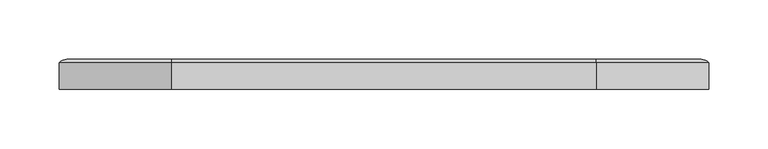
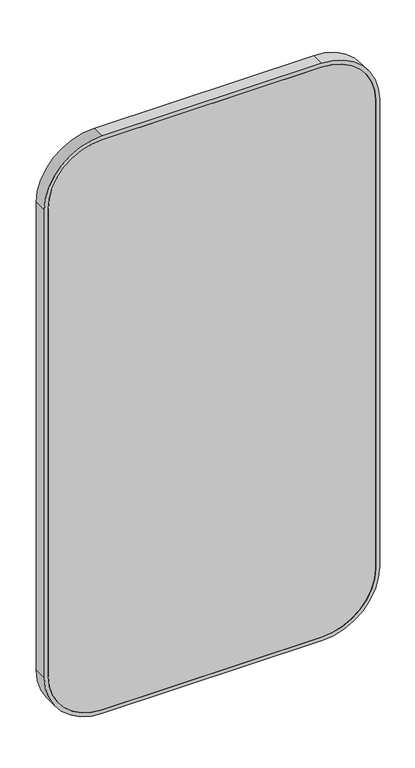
"""IFC4 building model written with IfcOpenShell, lengths in millimetres: proxy geometry, TSL_UK - TSLMR20 - Wall Mounted Mirror Rectangular : TSL.MR.20 - Black."""

from ifc_helpers import new_model, si_unit, point, frame, frame_2d, origin, place, context, project, spatial, polyline, circle_curve, ellipse_curve, trimmed, segment, composite_curve, outline, extrude, source, transform, mapped, element, save
from ifc_brep_helpers import plane_surface, cylinder_surface, revolved_surface, advanced_brep


def specialty_equipment_9f1add43(model_context):
    return source(origin(), model_context, "Body", "SolidModel", [
        advanced_brep(
        [(179.3875, 0.0, 1600.125), (-179.3875, 0.0, 1600.125), (-274.6375, 0.0, 1504.875), (-274.6375, 0.0, 695.25), (-179.3875, 0.0, 600.0), (179.3875, 0.0, 600.0), (274.6375, 0.0, 695.25), (274.6375, 0.0, 1504.875), (-268.2875, 0.0, 1504.875), (-179.3875, 0.0, 1593.775), (179.3875, 0.0, 1593.775), (268.2875, 0.0, 1504.875), (268.2875, 0.0, 695.25), (179.3875, 0.0, 606.35), (-179.3875, 0.0, 606.35), (-268.2875, 0.0, 695.25), (179.3875, 22.225, 1600.125), (-179.3875, 22.225, 1600.125), (-274.6375, 22.225, 1504.875), (-274.6375, 22.225, 695.25), (-179.3875, 22.225, 600.0), (179.3875, 22.225, 600.0), (274.6375, 22.225, 695.25), (274.6375, 22.225, 1504.875), (-268.2875, 22.225, 1504.875), (-179.3875, 22.225, 1593.775), (-179.3875, 25.4, 1593.775), (179.3875, 25.4, 1593.775), (179.3875, 22.225, 1593.775), (268.2875, 22.225, 1504.875), (268.2875, 25.4, 1504.875), (268.2875, 25.4, 695.25), (268.2875, 22.225, 695.25), (179.3875, 22.225, 606.35), (179.3875, 25.4, 606.35), (-179.3875, 25.4, 606.35), (-179.3875, 22.225, 606.35), (-268.2875, 22.225, 695.25), (-268.2875, 25.4, 695.25), (-268.2875, 25.4, 1504.875)],
        [
            (0, 1),
            (1, 2, circle_curve(frame((-179.3875, 0.0, 1504.875), z_axis=(0.0, -1.0, 0.0), x_axis=(1.0, 0.0, 0.0)), 95.25)),
            (2, 3),
            (3, 4, circle_curve(frame((-179.3875, 0.0, 695.25), z_axis=(0.0, -1.0, 0.0), x_axis=(1.0, 0.0, 0.0)), 95.25)),
            (4, 5),
            (5, 6, circle_curve(frame((179.3875, 0.0, 695.25), z_axis=(0.0, -1.0, 0.0), x_axis=(1.0, 0.0, 0.0)), 95.25)),
            (6, 7),
            (7, 0, circle_curve(frame((179.3875, 0.0, 1504.875), z_axis=(0.0, -1.0, 0.0), x_axis=(1.0, 0.0, 0.0)), 95.25)),
            (8, 9, circle_curve(frame((-179.3875, 0.0, 1504.875), z_axis=(0.0, 1.0, 0.0), x_axis=(1.0, 0.0, 0.0)), 88.9)),
            (9, 10),
            (10, 11, circle_curve(frame((179.3875, 0.0, 1504.875), z_axis=(0.0, 1.0, 0.0), x_axis=(1.0, 0.0, 0.0)), 88.9)),
            (11, 12),
            (12, 13, circle_curve(frame((179.3875, 0.0, 695.25), z_axis=(0.0, 1.0, 0.0), x_axis=(1.0, 0.0, 0.0)), 88.9)),
            (13, 14),
            (14, 15, circle_curve(frame((-179.3875, 0.0, 695.25), z_axis=(0.0, 1.0, 0.0), x_axis=(1.0, 0.0, 0.0)), 88.9)),
            (15, 8),
            (0, 16),
            (16, 17),
            (17, 1),
            (2, 18),
            (18, 19),
            (19, 3),
            (4, 20),
            (20, 21),
            (21, 5),
            (6, 22),
            (22, 23),
            (23, 7),
            (17, 18, circle_curve(frame((-179.3875, 22.225, 1504.875), z_axis=(0.0, -1.0, 0.0), x_axis=(1.0, 0.0, 0.0)), 95.25)),
            (19, 20, circle_curve(frame((-179.3875, 22.225, 695.25), z_axis=(0.0, -1.0, 0.0), x_axis=(1.0, 0.0, 0.0)), 95.25)),
            (21, 22, circle_curve(frame((179.3875, 22.225, 695.25), z_axis=(0.0, -1.0, 0.0), x_axis=(1.0, 0.0, 0.0)), 95.25)),
            (23, 16, circle_curve(frame((179.3875, 22.225, 1504.875), z_axis=(0.0, -1.0, 0.0), x_axis=(1.0, 0.0, 0.0)), 95.25)),
            (8, 24),
            (24, 25, circle_curve(frame((-179.3875, 22.225, 1504.875), z_axis=(0.0, 1.0, 0.0), x_axis=(1.0, 0.0, 0.0)), 88.9)),
            (25, 9),
            (25, 26),
            (26, 27),
            (27, 28),
            (28, 10),
            (28, 29, circle_curve(frame((179.3875, 22.225, 1504.875), z_axis=(0.0, 1.0, 0.0), x_axis=(1.0, 0.0, 0.0)), 88.9)),
            (29, 11),
            (29, 30),
            (30, 31),
            (31, 32),
            (32, 12),
            (32, 33, circle_curve(frame((179.3875, 22.225, 695.25), z_axis=(0.0, 1.0, 0.0), x_axis=(1.0, 0.0, 0.0)), 88.9)),
            (33, 13),
            (33, 34),
            (34, 35),
            (35, 36),
            (36, 14),
            (36, 37, circle_curve(frame((-179.3875, 22.225, 695.25), z_axis=(0.0, 1.0, 0.0), x_axis=(1.0, 0.0, 0.0)), 88.9)),
            (37, 15),
            (37, 38),
            (38, 39),
            (39, 24),
            (38, 19, circle_curve(frame((-267.5124031, 15.9123063, 695.25), z_axis=(0.0, 0.0, 1.0), x_axis=(0.0, 1.0, 0.0)), 9.5193018)),
            (18, 39, circle_curve(frame((-267.5124031, 15.9123063, 1504.875), z_axis=(0.0, 0.0, -1.0), x_axis=(0.0, 1.0, 0.0)), 9.5193018)),
            (35, 38, circle_curve(frame((-179.3875, 25.4, 695.25), z_axis=(0.0, 1.0, 0.0), x_axis=(-1.0, 0.0, 0.0)), 88.9)),
            (35, 20, circle_curve(frame((-179.3875, 15.9123063, 607.1250969), z_axis=(-1.0, 0.0, 0.0), x_axis=(0.0, 1.0, 0.0)), 9.5193018)),
            (34, 21, circle_curve(frame((179.3875, 15.9123063, 607.1250969), z_axis=(-1.0, 0.0, 0.0), x_axis=(0.0, 1.0, 0.0)), 9.5193018)),
            (31, 34, circle_curve(frame((179.3875, 25.4, 695.25), z_axis=(0.0, 1.0, 0.0), x_axis=(0.0, 0.0, -1.0)), 88.9)),
            (31, 22, circle_curve(frame((267.5124031, 15.9123063, 695.25), z_axis=(0.0, 0.0, -1.0), x_axis=(0.0, 1.0, 0.0)), 9.5193018)),
            (30, 23, circle_curve(frame((267.5124031, 15.9123063, 1504.875), z_axis=(0.0, 0.0, -1.0), x_axis=(0.0, 1.0, 0.0)), 9.5193018)),
            (27, 30, circle_curve(frame((179.3875, 25.4, 1504.875), z_axis=(0.0, 1.0, 0.0), x_axis=(1.0, 0.0, 0.0)), 88.9)),
            (27, 16, circle_curve(frame((179.3875, 15.9123063, 1592.9999031), z_axis=(1.0, 0.0, 0.0), x_axis=(0.0, 1.0, 0.0)), 9.5193018)),
            (26, 17, circle_curve(frame((-179.3875, 15.9123063, 1592.9999031), z_axis=(1.0, 0.0, 0.0), x_axis=(0.0, 1.0, 0.0)), 9.5193018)),
            (39, 26, circle_curve(frame((-179.3875, 25.4, 1504.875), z_axis=(0.0, 1.0, 0.0), x_axis=(0.0, 0.0, 1.0)), 88.9)),
        ],
        [
            plane_surface(frame((-179.3875, 0.0, 1600.125), z_axis=(0.0, -1.0, 0.0), x_axis=(1.0, 0.0, 0.0))),
            plane_surface(frame((179.3875, 22.225, 1600.125), z_axis=(0.0, 0.0, 1.0), x_axis=(0.0, -1.0, 0.0))),
            plane_surface(frame((-274.6375, 22.225, 1504.875), z_axis=(-1.0, 0.0, 0.0), x_axis=(0.0, -1.0, 0.0))),
            plane_surface(frame((-179.3875, 22.225, 600.0), z_axis=(0.0, 0.0, -1.0), x_axis=(0.0, -1.0, 0.0))),
            plane_surface(frame((274.6375, 22.225, 695.25), z_axis=(1.0, 0.0, 0.0), x_axis=(0.0, -1.0, 0.0))),
            cylinder_surface(frame((-179.3875, 0.0, 1504.875), z_axis=(0.0, 1.0, 0.0), x_axis=(1.0, 0.0, 0.0)), 95.25),
            cylinder_surface(frame((-179.3875, 0.0, 695.25), z_axis=(0.0, 1.0, 0.0), x_axis=(1.0, 0.0, 0.0)), 95.25),
            cylinder_surface(frame((179.3875, 0.0, 695.25), z_axis=(0.0, 1.0, 0.0), x_axis=(1.0, 0.0, 0.0)), 95.25),
            cylinder_surface(frame((179.3875, 0.0, 1504.875), z_axis=(0.0, 1.0, 0.0), x_axis=(1.0, 0.0, 0.0)), 95.25),
            revolved_surface(polyline([(-90.48749999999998, 0.0, 1504.875), (-90.48749999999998, 22.225, 1504.875)]), (-179.3875, 0.0, 1504.875), (0.0, -1.0, 0.0)),
            plane_surface(frame((-179.3875, 22.225, 1593.775), z_axis=(0.0, 0.0, -1.0), x_axis=(0.0, -1.0, 0.0))),
            revolved_surface(polyline([(268.2875, 0.0, 1504.875), (268.2875, 22.225, 1504.875)]), (179.3875, 0.0, 1504.875), (0.0, -1.0, 0.0)),
            plane_surface(frame((268.2875, 22.225, 1504.875), z_axis=(-1.0, 0.0, 0.0), x_axis=(0.0, -1.0, 0.0))),
            revolved_surface(polyline([(268.2875, 0.0, 695.25), (268.2875, 22.225, 695.25)]), (179.3875, 0.0, 695.25), (0.0, -1.0, 0.0)),
            plane_surface(frame((179.3875, 22.225, 606.35), z_axis=(0.0, 0.0, 1.0), x_axis=(0.0, -1.0, 0.0))),
            revolved_surface(polyline([(-90.48749999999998, 0.0, 695.25), (-90.48749999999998, 22.225, 695.25)]), (-179.3875, 0.0, 695.25), (0.0, -1.0, 0.0)),
            plane_surface(frame((-268.2875, 22.225, 695.25), z_axis=(1.0, 0.0, 0.0), x_axis=(0.0, -1.0, 0.0))),
            cylinder_surface(frame((-267.5124031, 15.9123063, 1504.875), z_axis=(0.0, 0.0, 1.0), x_axis=(0.0, 1.0, 0.0)), 9.5193018),
            revolved_surface(polyline([(-268.2875, 25.4, 695.25), (-268.2875, 22.225, 695.25)]), (-179.3875, 22.225, 695.25), (0.0, 1.0, 0.0)),
            revolved_surface(trimmed(ellipse_curve(frame((-267.5124031, 15.9123063, 695.25), z_axis=(0.0, 0.0, -1.0), x_axis=(0.0, 1.0, 0.0)), 9.5193018, 9.5193018), [point((-274.6375, 22.225, 695.25))], [point((-268.2875, 25.4, 695.25))], True, "CARTESIAN"), (-179.3875, 22.225, 695.25), (0.0, 1.0, 0.0)),
            cylinder_surface(frame((-179.3875, 15.9123063, 607.1250969), z_axis=(-1.0, 0.0, 0.0), x_axis=(0.0, 1.0, 0.0)), 9.5193018),
            revolved_surface(polyline([(179.3875, 25.4, 606.35), (179.3875, 22.225, 606.35)]), (179.3875, 22.225, 695.25), (0.0, 1.0, 0.0)),
            revolved_surface(trimmed(ellipse_curve(frame((179.3875, 15.9123063, 607.1250969), z_axis=(1.0, 0.0, 0.0), x_axis=(0.0, 1.0, 0.0)), 9.5193018, 9.5193018), [point((179.3875, 22.225, 600.0))], [point((179.3875, 25.4, 606.35))], True, "CARTESIAN"), (179.3875, 22.225, 695.25), (0.0, 1.0, 0.0)),
            cylinder_surface(frame((267.5124031, 15.9123063, 695.25), z_axis=(0.0, 0.0, -1.0), x_axis=(0.0, 1.0, 0.0)), 9.5193018),
            revolved_surface(polyline([(268.2875, 25.4, 1504.875), (268.2875, 22.225, 1504.875)]), (179.3875, 22.225, 1504.875), (0.0, 1.0, 0.0)),
            revolved_surface(trimmed(ellipse_curve(frame((267.5124031, 15.9123063, 1504.875), z_axis=(0.0, 0.0, 1.0), x_axis=(0.0, 1.0, 0.0)), 9.5193018, 9.5193018), [point((274.6375, 22.225, 1504.875))], [point((268.2875, 25.4, 1504.875))], True, "CARTESIAN"), (179.3875, 22.225, 1504.875), (0.0, 1.0, 0.0)),
            cylinder_surface(frame((179.3875, 15.9123063, 1592.9999031), z_axis=(1.0, 0.0, 0.0), x_axis=(0.0, 1.0, 0.0)), 9.5193018),
            revolved_surface(polyline([(-179.3875, 25.4, 1593.775), (-179.3875, 22.225, 1593.775)]), (-179.3875, 22.225, 1504.875), (0.0, 1.0, 0.0)),
            revolved_surface(trimmed(ellipse_curve(frame((-179.3875, 15.9123063, 1592.9999031), z_axis=(-1.0, 0.0, 0.0), x_axis=(0.0, 1.0, 0.0)), 9.5193018, 9.5193018), [point((-179.3875, 22.225, 1600.125))], [point((-179.3875, 25.4, 1593.775))], True, "CARTESIAN"), (-179.3875, 22.225, 1504.875), (0.0, 1.0, 0.0)),
        ],
        [
            (0, [[1, 2, 3, 4, 5, 6, 7, 8], [9, 10, 11, 12, 13, 14, 15, 16]]),
            (1, [[17, 18, 19, -1]]),
            (2, [[20, 21, 22, -3]]),
            (3, [[23, 24, 25, -5]]),
            (4, [[26, 27, 28, -7]]),
            (5, [[-19, 29, -20, -2]]),
            (6, [[-22, 30, -23, -4]]),
            (7, [[-25, 31, -26, -6]]),
            (8, [[-28, 32, -17, -8]]),
            (9, [[33, 34, 35, -9]]),
            (10, [[-35, 36, 37, 38, 39, -10]]),
            (11, [[-39, 40, 41, -11]]),
            (12, [[-41, 42, 43, 44, 45, -12]]),
            (13, [[-45, 46, 47, -13]]),
            (14, [[-47, 48, 49, 50, 51, -14]]),
            (15, [[-51, 52, 53, -15]]),
            (16, [[-53, 54, 55, 56, -33, -16]]),
            (17, [[57, -21, 58, -55]]),
            (18, [[-52, -50, 59, -54]]),
            (19, [[-59, 60, -30, -57]]),
            (20, [[-49, 61, -24, -60]]),
            (21, [[-46, -44, 62, -48]]),
            (22, [[-62, 63, -31, -61]]),
            (23, [[-43, 64, -27, -63]]),
            (24, [[-40, -38, 65, -42]]),
            (25, [[-65, 66, -32, -64]]),
            (26, [[-37, 67, -18, -66]]),
            (27, [[68, -36, -34, -56]]),
            (28, [[-29, -67, -68, -58]]),
        ],
    ),
        extrude(outline(composite_curve([segment(polyline([(1504.875, -268.2875), (695.25, -268.2875)]), True, "CONTINUOUS"), segment(trimmed(circle_curve(frame_2d((695.25, -179.3875)), 88.9), [point((695.25, -268.2875))], [point((606.35, -179.3875))], False, "CARTESIAN"), True, "CONTINUOUS"), segment(polyline([(606.35, -179.3875), (606.35, 179.3875)]), True, "CONTINUOUS"), segment(trimmed(circle_curve(frame_2d((695.25, 179.3875)), 88.9), [point((606.35, 179.3875))], [point((695.25, 268.2875))], False, "CARTESIAN"), True, "CONTINUOUS"), segment(polyline([(695.25, 268.2875), (1504.875, 268.2875)]), True, "CONTINUOUS"), segment(trimmed(circle_curve(frame_2d((1504.875, 179.3875)), 88.9), [point((1504.875, 268.2875))], [point((1593.775, 179.3875))], False, "CARTESIAN"), True, "CONTINUOUS"), segment(polyline([(1593.775, 179.3875), (1593.775, -179.3875)]), True, "CONTINUOUS"), segment(trimmed(circle_curve(frame_2d((1504.875, -179.3875)), 88.9), [point((1593.775, -179.3875))], [point((1504.875, -268.2875))], False, "CARTESIAN"), True, "CONTINUOUS")], self_intersect=False)), frame((0.0, 0.0, 0.0), z_axis=(0.0, 1.0, 0.0), x_axis=(0.0, 0.0, 1.0)), (0.0, 0.0, 1.0), 25.4),
    ])


if __name__ == "__main__":
    model = new_model("IFC4")
    model_context = context("Model", 3, world=origin())
    ifc_project = project(units=[si_unit("LENGTHUNIT", "METRE", prefix="MILLI")], contexts=[model_context])
    site = spatial("IfcSite", under=ifc_project)
    building = spatial("IfcBuilding", under=site)
    placement = place(None, origin())
    specialty_equipment_shape = specialty_equipment_9f1add43(model_context)
    element("IfcBuildingElementProxy", 1, Name="TSL_UK - TSLMR20 - Wall Mounted Mirror Rectangular : TSL.MR.20 - Black", ObjectType="TSL_UK - TSLMR20 - Wall Mounted Mirror Rectangular : TSL.MR.20 - Black", at=placement, inside=building, context=model_context, shape_type="MappedRepresentation", body=[
        mapped(specialty_equipment_shape, transform((0.0, 0.0, 0.0), x_axis=(1.0, 0.0, 0.0), y_axis=(0.0, 1.0, 0.0), z_axis=(0.0, 0.0, 1.0))),
    ])
    save(model, "model.ifc")
